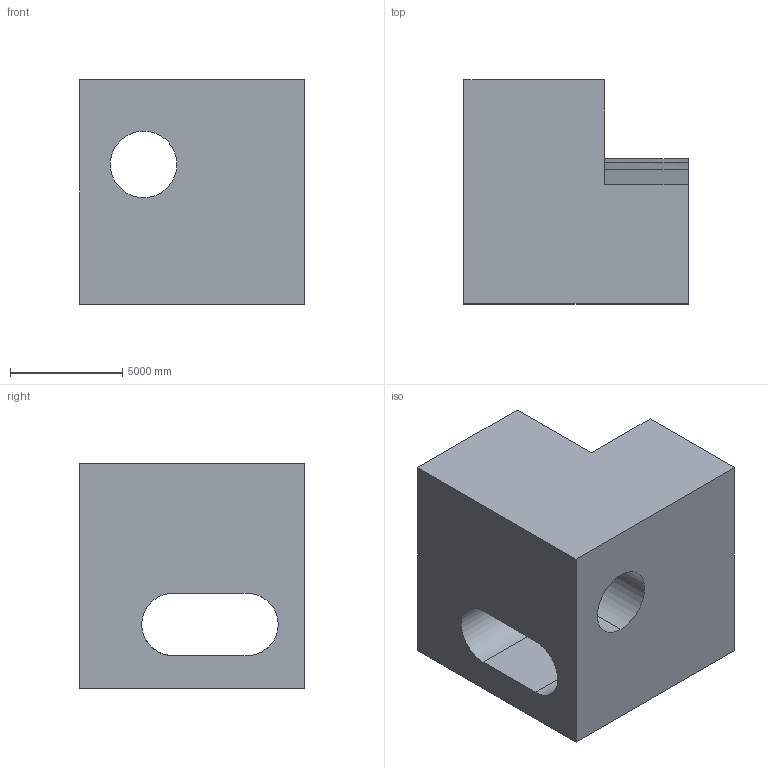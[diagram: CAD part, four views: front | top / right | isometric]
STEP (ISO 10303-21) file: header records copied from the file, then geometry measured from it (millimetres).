
FILE_DESCRIPTION (( 'STEP AP203' ), '1' );
FILE_NAME ('368.STEP', '2022-07-29T11:01:20', ( 'user' ), ( '' ), 'SwSTEP 2.0', 'SolidWorks 2021', '' );
FILE_SCHEMA (( 'CONFIG_CONTROL_DESIGN' ));
Length unit declared in the file: centimetre
Products named in the file (1): 368
Bounding box: 10000 x 10000 x 10000 mm (x, y, z)
Volume: 632462024011.6 mm3; surface area: 751788763.2 mm2
Topology: 1 solids, 1 shells, 21 faces, 60 edges, 40 vertices
Faces by surface type: plane 17, cylinder 4
Entity records: 773 total; most frequent: CARTESIAN_POINT 122, ORIENTED_EDGE 120, DIRECTION 118, EDGE_CURVE 60, LINE 46, VECTOR 46, VERTEX_POINT 40, AXIS2_PLACEMENT_3D 36
